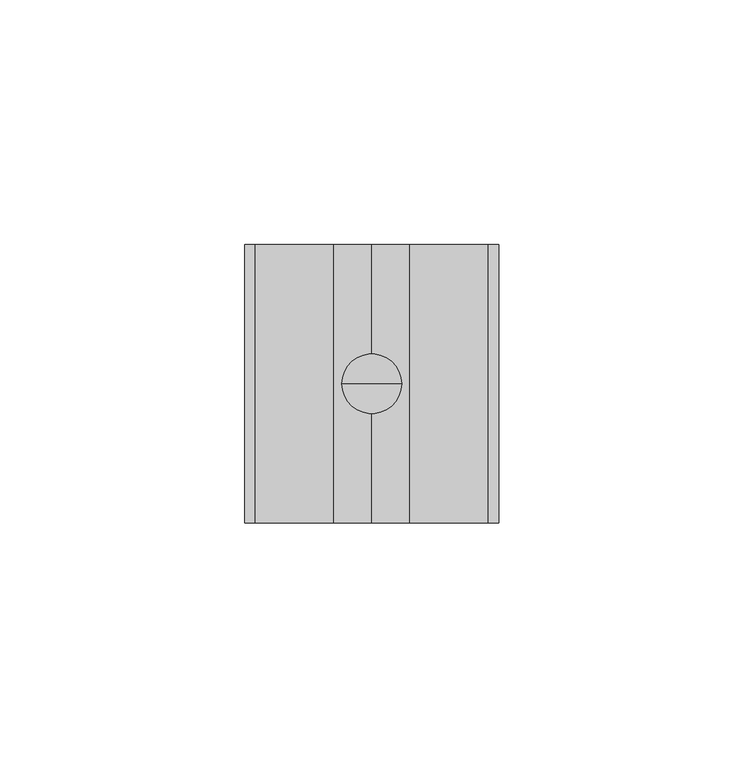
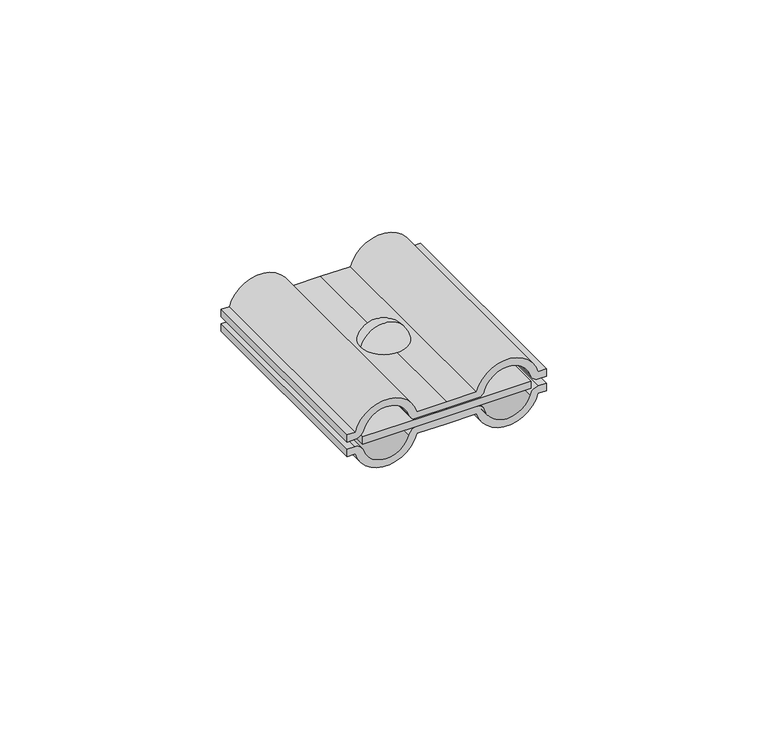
"""IFC4 building model written with IfcOpenShell, lengths in millimetres: proxy geometry, КНС_ПараллельныйЗажим_DKC : NG3107CU_Медь."""

from ifc_helpers import new_model, si_unit, point, frame, frame_2d, origin, place, context, project, spatial, polyline, circle_curve, ellipse_curve, trimmed, segment, composite_curve, outline, extrude, source, transform, mapped, element, save
from ifc_brep_helpers import plane_surface, cylinder_surface, revolved_surface, advanced_brep


def security_devices_cea8c366(model_context):
    return source(origin(), model_context, "Body", "SolidModel", [
        advanced_brep(
        [(0.0052023, 0.0, -1.0019399), (3.807283, 0.0, -1.0019399), (-3.7968784, 0.0, -1.0019399), (3.807283, 0.0, -2.9980601), (-3.7968784, 0.0, -2.9980601), (3.807283, 0.0, -17.0), (-3.7968784, 0.0, -17.0), (-3.7968784, 0.0, -7.7938791), (3.807283, 0.0, -7.7938791), (0.0052023, 0.0, -17.0), (6.7568441, 0.0258921, -2.9980601), (3.378422, 5.8774907, -2.9980601), (-3.378422, 5.8774907, -2.9980601), (-6.7568441, 0.0258921, -2.9980601), (-3.378422, -5.8257065, -2.9980601), (3.378422, -5.8257065, -2.9980601), (6.7568441, 0.0258921, -7.7938791), (3.378422, -5.8257065, -7.7938791), (-3.378422, -5.8257065, -7.7938791), (-6.7568441, 0.0258921, -7.7938791), (-3.378422, 5.8774907, -7.7938791), (3.378422, 5.8774907, -7.7938791)],
        [
            (0, 1),
            (1, 2, circle_curve(frame((0.0052023, 0.0, -1.0019399), z_axis=(0.0, 0.0, 1.0), x_axis=(1.0, 0.0, 0.0)), 3.8020807)),
            (2, 0),
            (2, 1, circle_curve(frame((0.0052023, 0.0, -1.0019399), z_axis=(0.0, 0.0, 1.0), x_axis=(1.0, 0.0, 0.0)), 3.8020807)),
            (1, 3),
            (3, 4, circle_curve(frame((0.0052023, 0.0, -2.9980601), z_axis=(0.0, 0.0, 1.0), x_axis=(1.0, 0.0, 0.0)), 3.8020807)),
            (4, 2),
            (5, 6, circle_curve(frame((0.0052023, 0.0, -17.0), z_axis=(0.0, 0.0, 1.0), x_axis=(1.0, 0.0, 0.0)), 3.8020807)),
            (6, 7),
            (7, 8, circle_curve(frame((0.0052023, 0.0, -7.7938791), z_axis=(0.0, 0.0, -1.0), x_axis=(1.0, 0.0, 0.0)), 3.8020807)),
            (8, 5),
            (4, 3, circle_curve(frame((0.0052023, 0.0, -2.9980601), z_axis=(0.0, 0.0, 1.0), x_axis=(1.0, 0.0, 0.0)), 3.8020807)),
            (6, 5, circle_curve(frame((0.0052023, 0.0, -17.0), z_axis=(0.0, 0.0, 1.0), x_axis=(1.0, 0.0, 0.0)), 3.8020807)),
            (8, 7, circle_curve(frame((0.0052023, 0.0, -7.7938791), z_axis=(0.0, 0.0, -1.0), x_axis=(1.0, 0.0, 0.0)), 3.8020807)),
            (5, 9),
            (9, 6),
            (10, 11),
            (11, 12),
            (12, 13),
            (13, 14),
            (14, 15),
            (15, 10),
            (16, 17),
            (17, 18),
            (18, 19),
            (19, 20),
            (20, 21),
            (21, 16),
            (10, 16),
            (21, 11),
            (20, 12),
            (19, 13),
            (18, 14),
            (17, 15),
        ],
        [
            plane_surface(frame((0.0052023, 0.0, -1.0019399), z_axis=(0.0, 0.0, 1.0), x_axis=(1.0, 0.0, 0.0))),
            cylinder_surface(frame((0.0052023, 0.0, 2.2113369), z_axis=(0.0, 0.0, 1.0), x_axis=(1.0, 0.0, 0.0)), 3.8020807),
            plane_surface(frame((0.0052023, 0.0, -17.0), z_axis=(0.0, 0.0, -1.0), x_axis=(1.0, 0.0, 0.0))),
            plane_surface(frame((6.2879163, 0.8380988, -2.9980601), z_axis=(0.0, 0.0, 1.0), x_axis=(-0.4999999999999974, 0.8660254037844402, 0.0))),
            plane_surface(frame((6.2879163, 0.8380988, -7.7938791), z_axis=(0.0, 0.0, -1.0), x_axis=(0.4999999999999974, -0.8660254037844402, 0.0))),
            plane_surface(frame((6.7568441, 0.0258921, -2.9980601), z_axis=(0.8660254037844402, 0.4999999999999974, 0.0), x_axis=(0.0, 0.0, -1.0))),
            plane_surface(frame((3.378422, 5.8774907, -2.9980601), z_axis=(0.0, 1.0, 0.0), x_axis=(0.0, 0.0, -1.0))),
            plane_surface(frame((-3.378422, 5.8774907, -2.9980601), z_axis=(-0.8660254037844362, 0.5000000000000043, 0.0), x_axis=(0.0, 0.0, -1.0))),
            plane_surface(frame((-6.7568441, 0.0258921, -2.9980601), z_axis=(-0.8660254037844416, -0.49999999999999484, 0.0), x_axis=(0.0, 0.0, -1.0))),
            plane_surface(frame((-3.378422, -5.8257065, -2.9980601), z_axis=(0.0, -1.0, 0.0), x_axis=(0.0, 0.0, -1.0))),
            plane_surface(frame((3.378422, -5.8257065, -2.9980601), z_axis=(0.8660254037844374, -0.5000000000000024, 0.0), x_axis=(0.0, 0.0, -1.0))),
        ],
        [
            (0, [[1, 2, 3]]),
            (0, [[-1, -3, 4]]),
            (1, [[-2, 5, 6, 7]]),
            (1, [[8, 9, 10, 11]]),
            (1, [[-4, -7, 12, -5]]),
            (1, [[13, -11, 14, -9]]),
            (2, [[-8, 15, 16]]),
            (2, [[-13, -16, -15]]),
            (3, [[17, 18, 19, 20, 21, 22], [-6, -12]]),
            (4, [[23, 24, 25, 26, 27, 28], [-10, -14]]),
            (5, [[-17, 29, -28, 30]]),
            (6, [[-18, -30, -27, 31]]),
            (7, [[-19, -31, -26, 32]]),
            (8, [[-20, -32, -25, 33]]),
            (9, [[-21, -33, -24, 34]]),
            (10, [[-22, -34, -23, -29]]),
        ],
    ),
        advanced_brep(
        [(0.0, 0.0, 2.9980601), (-6.0914555, 0.0, 2.9980601), (6.0914555, 0.0, 2.9980601), (0.0, 0.0, 7.4237616)],
        [
            (0, 1),
            (1, 2, circle_curve(frame((0.0, 0.0, 2.9980601), z_axis=(0.0, 0.0, -1.0), x_axis=(-1.0, 0.0, 0.0)), 6.0914555)),
            (2, 0),
            (2, 1, circle_curve(frame((0.0, 0.0, 2.9980601), z_axis=(0.0, 0.0, -1.0), x_axis=(-1.0, 0.0, 0.0)), 6.0914555)),
            (1, 3, circle_curve(frame((-0.1722355, 0.0, 1.255888), z_axis=(0.0, 1.0, 0.0), x_axis=(1.0, 0.0, 0.0)), 6.1702779)),
            (3, 2, circle_curve(frame((0.1722355, 0.0, 1.255888), z_axis=(0.0, 1.0, 0.0), x_axis=(-1.0, 0.0, 0.0)), 6.1702779)),
        ],
        [
            plane_surface(frame((0.0, 0.0, 2.9980601), z_axis=(0.0, 0.0, -1.0), x_axis=(-1.0, 0.0, 0.0))),
            revolved_surface(trimmed(ellipse_curve(frame((-0.1722355, 0.0, 1.255888), z_axis=(0.0, -1.0, 0.0), x_axis=(1.0, 0.0, 0.0)), 6.1702779, 6.1702779), [point((0.0, 0.0, 7.4237616))], [point((-6.0914555, 0.0, 2.9980601))], True, "CARTESIAN"), (0.0, 0.0, 10.103576), (0.0, 0.0, -1.0)),
        ],
        [
            (0, [[1, 2, 3]]),
            (0, [[-3, 4, -1]]),
            (1, [[-2, 5, 6]]),
            (1, [[-4, -6, -5]]),
        ],
    ),
        extrude(outline(polyline([(0.9980601, -21.996749), (-1.0019399, -21.996749), (-1.0019399, 0.003251), (-1.0019399, 21.996749), (0.9980601, 21.996749), (0.9980601, 0.0), (0.9980601, -21.996749)])), frame((0.0, -28.5, 0.0), z_axis=(0.0, 1.0, 0.0), x_axis=(0.0, 0.0, 1.0)), (0.0, 0.0, 1.0), 57.0),
        extrude(outline(composite_curve([segment(trimmed(circle_curve(frame_2d((-3.2240525, -7.6484052)), 2.2259924), [point((-0.9980601, -7.6484052))], [point((-2.837513, -9.8405798))], False, "CARTESIAN"), True, "CONTINUOUS"), segment(trimmed(circle_curve(frame_2d((-0.8747898, -15.8173791)), 6.2908196), [point((-2.837513, -9.8405798))], [point((-2.837513, -21.7941783))], True, "CARTESIAN"), True, "CONTINUOUS"), segment(trimmed(circle_curve(frame_2d((-3.2240525, -23.986353)), 2.2259924), [point((-2.837513, -21.7941783))], [point((-0.9980601, -23.986353))], False, "CARTESIAN"), True, "CONTINUOUS"), segment(polyline([(-0.9980601, -23.986353), (-0.9980601, -26.0), (-2.9980601, -26.0), (-2.9980601, -23.8317046)]), True, "CONTINUOUS"), segment(trimmed(circle_curve(frame_2d((-0.8747898, -15.8173791)), 8.2908196), [point((-2.9980601, -23.8317046))], [point((-2.9980601, -7.8030535))], False, "CARTESIAN"), True, "CONTINUOUS"), segment(polyline([(-2.9980601, -7.8030535), (-2.9980601, 0.0), (-2.9980601, 7.8030535)]), True, "CONTINUOUS"), segment(trimmed(circle_curve(frame_2d((-0.8747898, 15.8173791)), 8.2908196), [point((-2.9980601, 7.8030535))], [point((-2.9980601, 23.8317046))], False, "CARTESIAN"), True, "CONTINUOUS"), segment(polyline([(-2.9980601, 23.8317046), (-2.9980601, 26.0), (-0.9980601, 26.0), (-0.9980601, 23.986353)]), True, "CONTINUOUS"), segment(trimmed(circle_curve(frame_2d((-3.2240525, 23.986353)), 2.2259924), [point((-0.9980601, 23.986353))], [point((-2.837513, 21.7941783))], False, "CARTESIAN"), True, "CONTINUOUS"), segment(trimmed(circle_curve(frame_2d((-0.8747898, 15.8173791)), 6.2908196), [point((-2.837513, 21.7941783))], [point((-2.837513, 9.8405798))], True, "CARTESIAN"), True, "CONTINUOUS"), segment(trimmed(circle_curve(frame_2d((-3.2240525, 7.6484052)), 2.2259924), [point((-2.837513, 9.8405798))], [point((-0.9980601, 7.6484052))], False, "CARTESIAN"), True, "CONTINUOUS"), segment(polyline([(-0.9980601, 7.6484052), (-0.9980601, 0.0), (-0.9980601, -7.6484052)]), True, "CONTINUOUS")], self_intersect=False)), frame((0.0, -28.5, 0.0), z_axis=(0.0, 1.0, 0.0), x_axis=(0.0, 0.0, 1.0)), (0.0, 0.0, 1.0), 57.0),
        extrude(outline(composite_curve([segment(polyline([(0.9980601, -7.6484052), (0.9980601, 0.0), (0.9980601, 7.6484052)]), True, "CONTINUOUS"), segment(trimmed(circle_curve(frame_2d((3.2240525, 7.6484052)), 2.2259924), [point((0.9980601, 7.6484052))], [point((2.837513, 9.8405798))], False, "CARTESIAN"), True, "CONTINUOUS"), segment(trimmed(circle_curve(frame_2d((0.8747898, 15.8173791)), 6.2908196), [point((2.837513, 9.8405798))], [point((2.837513, 21.7941783))], True, "CARTESIAN"), True, "CONTINUOUS"), segment(trimmed(circle_curve(frame_2d((3.2240525, 23.986353)), 2.2259924), [point((2.837513, 21.7941783))], [point((0.9980601, 23.986353))], False, "CARTESIAN"), True, "CONTINUOUS"), segment(polyline([(0.9980601, 23.986353), (0.9980601, 26.0), (2.9980601, 26.0), (2.9980601, 23.8317046)]), True, "CONTINUOUS"), segment(trimmed(circle_curve(frame_2d((0.8747898, 15.8173791)), 8.2908196), [point((2.9980601, 23.8317046))], [point((2.9980601, 7.8030535))], False, "CARTESIAN"), True, "CONTINUOUS"), segment(polyline([(2.9980601, 7.8030535), (2.9980601, 0.0), (2.9980601, -7.8030535)]), True, "CONTINUOUS"), segment(trimmed(circle_curve(frame_2d((0.8747898, -15.8173791)), 8.2908196), [point((2.9980601, -7.8030535))], [point((2.9980601, -23.8317046))], False, "CARTESIAN"), True, "CONTINUOUS"), segment(polyline([(2.9980601, -23.8317046), (2.9980601, -26.0), (0.9980601, -26.0), (0.9980601, -23.986353)]), True, "CONTINUOUS"), segment(trimmed(circle_curve(frame_2d((3.2240525, -23.986353)), 2.2259924), [point((0.9980601, -23.986353))], [point((2.837513, -21.7941783))], False, "CARTESIAN"), True, "CONTINUOUS"), segment(trimmed(circle_curve(frame_2d((0.8747898, -15.8173791)), 6.2908196), [point((2.837513, -21.7941783))], [point((2.837513, -9.8405798))], True, "CARTESIAN"), True, "CONTINUOUS"), segment(trimmed(circle_curve(frame_2d((3.2240525, -7.6484052)), 2.2259924), [point((2.837513, -9.8405798))], [point((0.9980601, -7.6484052))], False, "CARTESIAN"), True, "CONTINUOUS")], self_intersect=False)), frame((0.0, -28.5, 0.0), z_axis=(0.0, 1.0, 0.0), x_axis=(0.0, 0.0, 1.0)), (0.0, 0.0, 1.0), 57.0),
    ])


if __name__ == "__main__":
    model = new_model("IFC4")
    model_context = context("Model", 3, world=origin())
    ifc_project = project(units=[si_unit("LENGTHUNIT", "METRE", prefix="MILLI")], contexts=[model_context])
    site = spatial("IfcSite", under=ifc_project)
    building = spatial("IfcBuilding", under=site)
    placement = place(None, origin())
    security_devices_shape = security_devices_cea8c366(model_context)
    element("IfcBuildingElementProxy", 1, Name="КНС_ПараллельныйЗажим_DKC : NG3107CU_Медь", ObjectType="КНС_ПараллельныйЗажим_DKC : NG3107CU_Медь", at=placement, inside=building, context=model_context, shape_type="MappedRepresentation", body=[
        mapped(security_devices_shape, transform((0.0, 0.0, 0.0), x_axis=(1.0, 0.0, 0.0), y_axis=(0.0, 1.0, 0.0), z_axis=(0.0, 0.0, 1.0))),
    ])
    save(model, "model.ifc")
